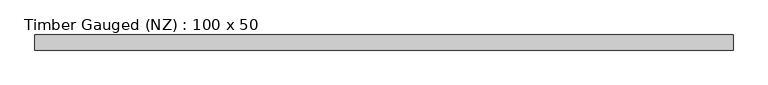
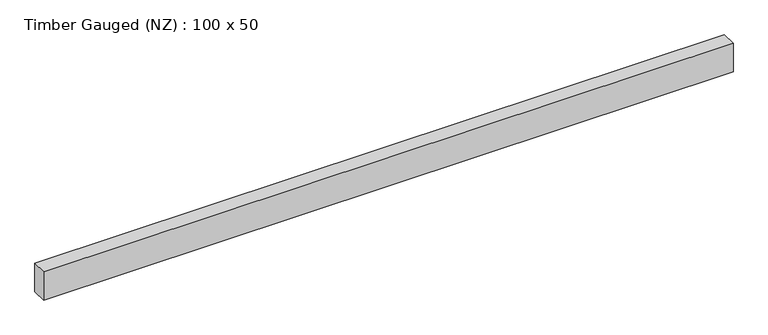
"""IFC4 building model written with IfcOpenShell, lengths in millimetres: beam geometry, Timber Gauged (NZ) : 100 x 50."""

from ifc_helpers import new_model, si_unit, frame, origin, place, context, project, spatial, polyline, outline, extrude, source, transform, mapped, element, save


def timber_gauged_nz_100_x_50_a05adcf6(model_context):
    return source(origin(), model_context, "Body", "SweptSolid", [
        extrude(outline(polyline([(1085.125, 23.5), (1085.125, -23.5), (-1085.5, -23.5), (-1085.5, 23.5), (1085.125, 23.5)])), frame((0.0, 0.0, -47.0), z_axis=(0.0, 0.0, 1.0), x_axis=(1.0, 0.0, 0.0)), (0.0, 0.0, 1.0), 94.0),
    ])


if __name__ == "__main__":
    model = new_model("IFC4")
    model_context = context("Model", 3, world=origin())
    ifc_project = project(units=[si_unit("LENGTHUNIT", "METRE", prefix="MILLI")], contexts=[model_context])
    site = spatial("IfcSite", under=ifc_project)
    building = spatial("IfcBuilding", under=site)
    placement = place(None, origin())
    timber_gauged_nz_100_x_50_shape = timber_gauged_nz_100_x_50_a05adcf6(model_context)
    element("IfcBeam", 1, ObjectType="Timber Gauged (NZ) : 100 x 50", at=placement, inside=building, context=model_context, shape_type="MappedRepresentation", body=[
        mapped(timber_gauged_nz_100_x_50_shape, transform((0.0, 0.0, 0.0), x_axis=(1.0, 0.0, 0.0), y_axis=(0.0, 1.0, 0.0), z_axis=(0.0, 0.0, 1.0))),
    ])
    save(model, "model.ifc")
